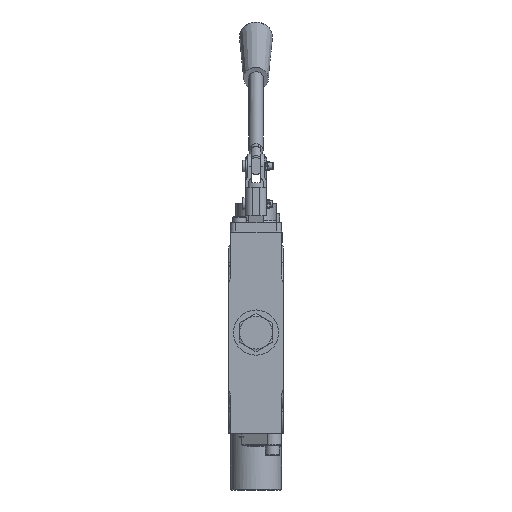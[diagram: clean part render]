
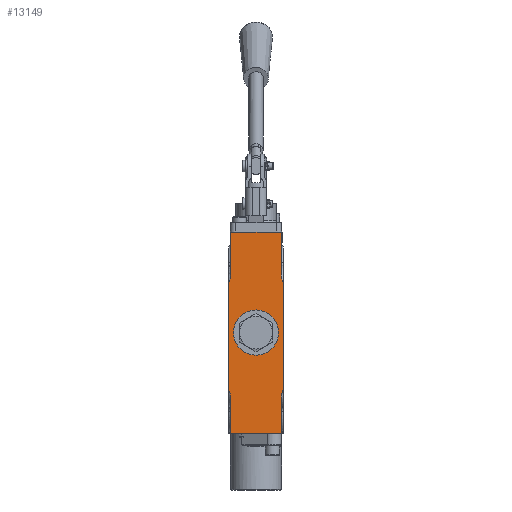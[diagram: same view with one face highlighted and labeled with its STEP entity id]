
A CAD part, front view. The second image highlights one B-rep face of the part: STEP entity #13149.
In plain terms, the highlighted planar face has unit normal (0, -1, 0).
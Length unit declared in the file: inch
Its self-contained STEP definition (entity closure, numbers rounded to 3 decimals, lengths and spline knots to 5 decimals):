
#8249=CARTESIAN_POINT('',(0.54092,-1.45151,-5.437));
#8250=VERTEX_POINT('',#8249);
#8257=CARTESIAN_POINT('',(-0.80208,-1.45151,-5.437));
#8258=VERTEX_POINT('',#8257);
#8259=CARTESIAN_POINT('',(-0.80208,-1.45151,-5.437));
#8260=DIRECTION('',(1.0,0.0,0.0));
#8261=VECTOR('',#8260,1.343);
#8262=LINE('',#8259,#8261);
#8263=EDGE_CURVE('',#8258,#8250,#8262,.T.);
#9493=CARTESIAN_POINT('',(0.58792,-1.45151,-1.44204));
#9494=VERTEX_POINT('',#9493);
#9502=CARTESIAN_POINT('',(0.58792,-1.45151,-4.27796));
#9503=VERTEX_POINT('',#9502);
#9504=CARTESIAN_POINT('',(0.58792,-1.45151,-4.27796));
#9505=DIRECTION('',(0.0,0.0,1.0));
#9506=VECTOR('',#9505,2.83591);
#9507=LINE('',#9504,#9506);
#9508=EDGE_CURVE('',#9503,#9494,#9507,.T.);
#9891=CARTESIAN_POINT('',(0.46845,-1.45151,-2.76037));
#9892=VERTEX_POINT('',#9891);
#9893=CARTESIAN_POINT('',(-0.13055,-1.45151,-2.76037));
#9894=DIRECTION('',(0.0,1.0,0.0));
#9895=DIRECTION('',(1.0,0.0,0.0));
#9896=AXIS2_PLACEMENT_3D('',#9893,#9894,#9895);
#9897=CIRCLE('',#9896,0.599);
#9898=EDGE_CURVE('',#9892,#9892,#9897,.T.);
#9995=CARTESIAN_POINT('',(-0.84908,-1.45151,-4.27796));
#9996=VERTEX_POINT('',#9995);
#10004=CARTESIAN_POINT('',(-0.84908,-1.45151,-1.44204));
#10005=VERTEX_POINT('',#10004);
#10006=CARTESIAN_POINT('',(-0.84908,-1.45151,-1.44204));
#10007=DIRECTION('',(0.0,0.0,-1.0));
#10008=VECTOR('',#10007,2.83591);
#10009=LINE('',#10006,#10008);
#10010=EDGE_CURVE('',#10005,#9996,#10009,.T.);
#11611=CARTESIAN_POINT('',(0.54092,-1.45151,-0.093));
#11612=VERTEX_POINT('',#11611);
#11619=CARTESIAN_POINT('',(0.54092,-1.45151,-1.2284));
#11620=VERTEX_POINT('',#11619);
#11621=CARTESIAN_POINT('',(0.54092,-1.45151,-0.093));
#11622=DIRECTION('',(0.0,0.0,-1.0));
#11623=VECTOR('',#11622,1.1354);
#11624=LINE('',#11621,#11623);
#11625=EDGE_CURVE('',#11612,#11620,#11624,.T.);
#12158=CARTESIAN_POINT('',(-0.80208,-1.45151,-0.093));
#12159=VERTEX_POINT('',#12158);
#12272=CARTESIAN_POINT('',(-0.80208,-1.45151,-1.2284));
#12273=VERTEX_POINT('',#12272);
#12281=CARTESIAN_POINT('',(-0.80208,-1.45151,-0.093));
#12282=DIRECTION('',(0.0,0.0,-1.0));
#12283=VECTOR('',#12282,1.1354);
#12284=LINE('',#12281,#12283);
#12285=EDGE_CURVE('',#12159,#12273,#12284,.T.);
#13074=CARTESIAN_POINT('',(-0.84908,-1.45151,-1.44204));
#13075=CARTESIAN_POINT('',(-0.8384,-1.45151,-1.41095));
#13076=CARTESIAN_POINT('',(-0.82791,-1.45151,-1.37828));
#13077=CARTESIAN_POINT('',(-0.81051,-1.45151,-1.31195));
#13078=CARTESIAN_POINT('',(-0.80208,-1.45151,-1.26673));
#13079=CARTESIAN_POINT('',(-0.80208,-1.45151,-1.2284));
#13080=B_SPLINE_CURVE_WITH_KNOTS('',3,(#13074,#13075,#13076,#13077,#13078,#13079),.UNSPECIFIED.,.F.,.U.,(4,2,4),(0.11,0.34044,0.63253),.UNSPECIFIED.);
#13081=EDGE_CURVE('',#10005,#12273,#13080,.T.);
#13088=CARTESIAN_POINT('',(-0.80208,-1.45151,0.0));
#13089=DIRECTION('',(0.0,-1.0,0.0));
#13090=DIRECTION('',(0.0,0.0,-1.0));
#13091=AXIS2_PLACEMENT_3D('',#13088,#13089,#13090);
#13092=PLANE('',#13091);
#13093=CARTESIAN_POINT('',(0.54092,-1.45151,-0.093));
#13094=DIRECTION('',(-1.0,0.0,0.0));
#13095=VECTOR('',#13094,1.343);
#13096=LINE('',#13093,#13095);
#13097=EDGE_CURVE('',#11612,#12159,#13096,.T.);
#13098=ORIENTED_EDGE('',*,*,#13097,.T.);
#13099=ORIENTED_EDGE('',*,*,#12285,.T.);
#13100=ORIENTED_EDGE('',*,*,#13081,.F.);
#13101=ORIENTED_EDGE('',*,*,#10010,.T.);
#13102=CARTESIAN_POINT('',(-0.80208,-1.45151,-4.4916));
#13103=VERTEX_POINT('',#13102);
#13104=CARTESIAN_POINT('',(-0.80208,-1.45151,-4.4916));
#13105=CARTESIAN_POINT('',(-0.80208,-1.45151,-4.45327));
#13106=CARTESIAN_POINT('',(-0.81051,-1.45151,-4.40805));
#13107=CARTESIAN_POINT('',(-0.82791,-1.45151,-4.34172));
#13108=CARTESIAN_POINT('',(-0.8384,-1.45151,-4.30905));
#13109=CARTESIAN_POINT('',(-0.84908,-1.45151,-4.27796));
#13110=B_SPLINE_CURVE_WITH_KNOTS('',3,(#13104,#13105,#13106,#13107,#13108,#13109),.UNSPECIFIED.,.F.,.U.,(4,2,4),(1.3298,1.62189,1.85232),.UNSPECIFIED.);
#13111=EDGE_CURVE('',#13103,#9996,#13110,.T.);
#13112=ORIENTED_EDGE('',*,*,#13111,.F.);
#13113=CARTESIAN_POINT('',(-0.80208,-1.45151,-4.4916));
#13114=DIRECTION('',(0.0,0.0,-1.0));
#13115=VECTOR('',#13114,0.9454);
#13116=LINE('',#13113,#13115);
#13117=EDGE_CURVE('',#13103,#8258,#13116,.T.);
#13118=ORIENTED_EDGE('',*,*,#13117,.T.);
#13119=ORIENTED_EDGE('',*,*,#8263,.T.);
#13120=CARTESIAN_POINT('',(0.54092,-1.45151,-4.4916));
#13121=VERTEX_POINT('',#13120);
#13122=CARTESIAN_POINT('',(0.54092,-1.45151,-4.4916));
#13123=DIRECTION('',(0.0,0.0,-1.0));
#13124=VECTOR('',#13123,0.9454);
#13125=LINE('',#13122,#13124);
#13126=EDGE_CURVE('',#13121,#8250,#13125,.T.);
#13127=ORIENTED_EDGE('',*,*,#13126,.F.);
#13128=CARTESIAN_POINT('',(0.58792,-1.45151,-4.27796));
#13129=CARTESIAN_POINT('',(0.56431,-1.45151,-4.34673));
#13130=CARTESIAN_POINT('',(0.54092,-1.45151,-4.42276));
#13131=CARTESIAN_POINT('',(0.54092,-1.45151,-4.4916));
#13132=B_SPLINE_CURVE_WITH_KNOTS('',3,(#13128,#13129,#13130,#13131),.UNSPECIFIED.,.F.,.U.,(4,4),(0.11215,0.63669),.UNSPECIFIED.);
#13133=EDGE_CURVE('',#9503,#13121,#13132,.T.);
#13134=ORIENTED_EDGE('',*,*,#13133,.F.);
#13135=ORIENTED_EDGE('',*,*,#9508,.T.);
#13136=CARTESIAN_POINT('',(0.54092,-1.45151,-1.2284));
#13137=CARTESIAN_POINT('',(0.54092,-1.45151,-1.29724));
#13138=CARTESIAN_POINT('',(0.56431,-1.45151,-1.37327));
#13139=CARTESIAN_POINT('',(0.58792,-1.45151,-1.44204));
#13140=B_SPLINE_CURVE_WITH_KNOTS('',3,(#13136,#13137,#13138,#13139),.UNSPECIFIED.,.F.,.U.,(4,4),(1.3298,1.85434),.UNSPECIFIED.);
#13141=EDGE_CURVE('',#11620,#9494,#13140,.T.);
#13142=ORIENTED_EDGE('',*,*,#13141,.F.);
#13143=ORIENTED_EDGE('',*,*,#11625,.F.);
#13144=EDGE_LOOP('',(#13098,#13099,#13100,#13101,#13112,#13118,#13119,#13127,#13134,#13135,#13142,#13143));
#13145=FACE_OUTER_BOUND('',#13144,.T.);
#13146=ORIENTED_EDGE('',*,*,#9898,.T.);
#13147=EDGE_LOOP('',(#13146));
#13148=FACE_BOUND('',#13147,.T.);
#13149=ADVANCED_FACE('',(#13145,#13148),#13092,.T.);
